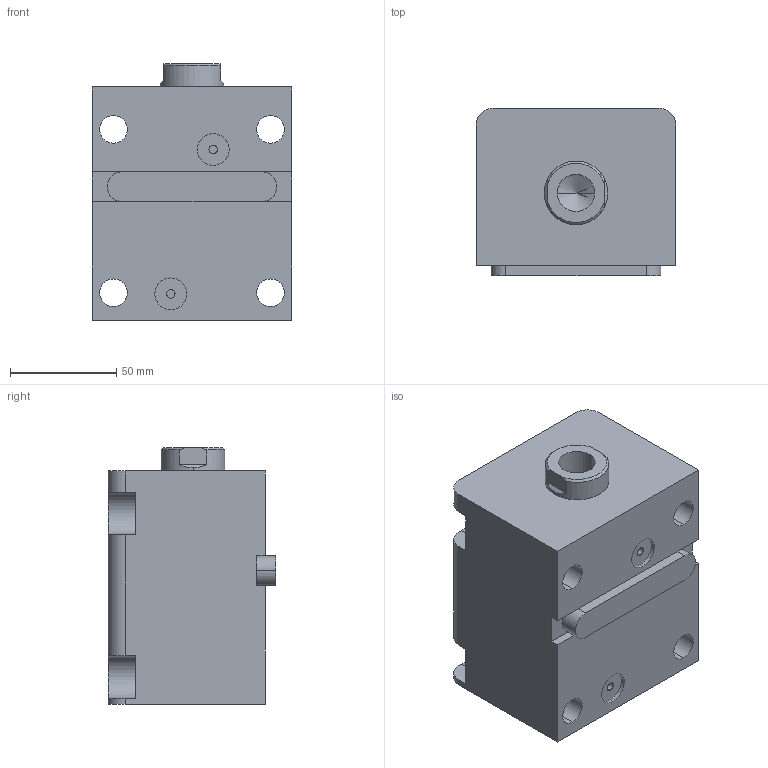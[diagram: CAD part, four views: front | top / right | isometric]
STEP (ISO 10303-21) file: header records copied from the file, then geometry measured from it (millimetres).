
FILE_DESCRIPTION (( 'STEP AP203' ), '1' );
FILE_NAME ('HTB-LAM50-50N.STEP', '2023-03-20T00:55:15', ( '微软用户' ), ( '微软中国' ), 'SwSTEP 2.0', 'SolidWorks 2012', '' );
FILE_SCHEMA (( 'CONFIG_CONTROL_DESIGN' ));
Length unit declared in the file: millimetre
Products named in the file (4): HTB-LAM50-50N; HTB-LWM50-瑩; HTB-LAM50-50N活塞杆; HTB-LAM50-50掛极
Assembly tree (3 placements, depth 2):
  HTB-LAM50-50N
    HTB-LAM50-50掛极
    HTB-LAM50-50N活塞杆
    HTB-LWM50-瑩
Bounding box: 94 x 79 x 121 mm (x, y, z)
Volume: 653876.3 mm3; surface area: 98854.6 mm2
Topology: 3 solids, 3 shells, 86 faces, 213 edges, 139 vertices
Faces by surface type: cylinder 39, plane 39, torus 4, cone 4
Entity records: 3001 total; most frequent: DIRECTION 475, CARTESIAN_POINT 470, ORIENTED_EDGE 422, EDGE_CURVE 211, AXIS2_PLACEMENT_3D 180, VERTEX_POINT 139, LINE 115, VECTOR 115
